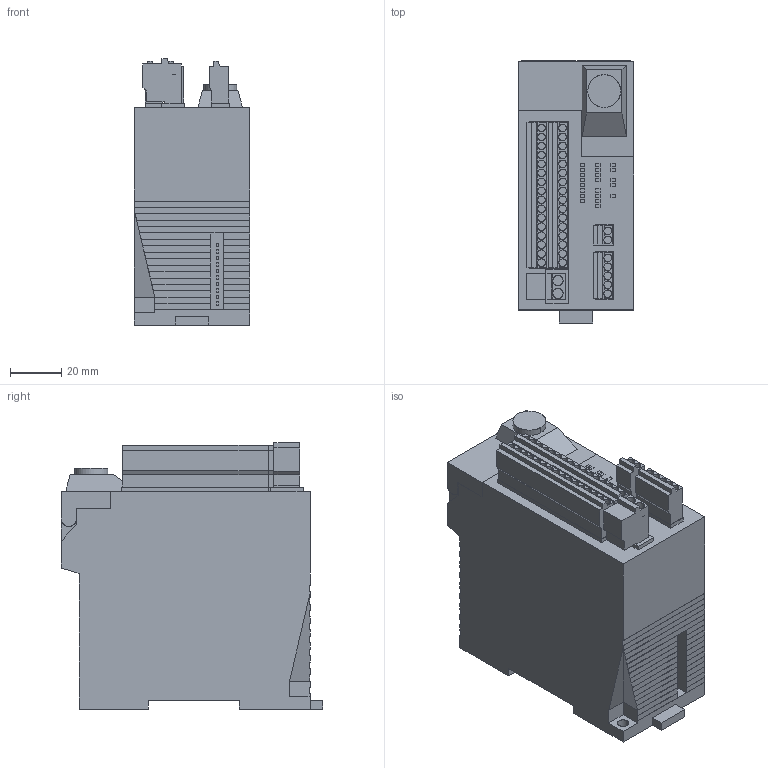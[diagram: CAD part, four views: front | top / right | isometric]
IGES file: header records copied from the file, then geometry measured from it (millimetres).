
Start section: SolidWorks IGES file using analytic representation for surfaces
Global section: file name: G:\Parts\S\SF-C20\1_Work\Catalog\3D\sf-c21.IGS; native system: SolidWorks 2010; preprocessor: SolidWorks 2010; author: C0909; date: 140910.162928; units: millimetre
Bounding box: 45 x 102 x 103.9 mm (x, y, z)
Surface area: 57280.7 mm2 (no closed solid volume)
Topology: 0 solids, 0 shells, 1354 faces, 10187 edges, 10187 vertices
Faces by surface type: bspline 1238, revolution 116
